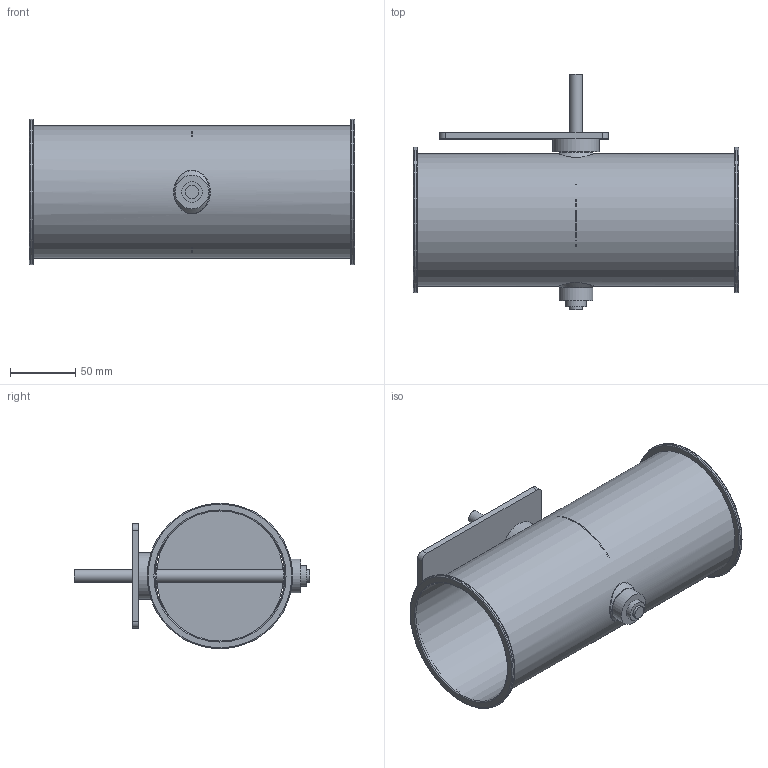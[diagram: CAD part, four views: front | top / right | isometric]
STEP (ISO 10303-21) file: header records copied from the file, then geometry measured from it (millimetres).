
FILE_DESCRIPTION(/* description */ (''),/* implementation_level */ '2;1');
FILE_NAME(/* name */ 'EA120-80B__100_L250_Belimo_Typ_LM.stp',/* time_stamp */ '2017-12-05T13:43:36+01:00',/* author */ (''),/* organization */ (''),/* preprocessor_version */ 'ST-DEVELOPER v11',/* originating_system */ 'SIEMENS UGS NX 6.0',/* authorisation */ '');
FILE_SCHEMA (('CONFIG_CONTROL_DESIGN'));
Length unit declared in the file: millimetre
Products named in the file (1): gars1E3Bhii0
Bounding box: 250 x 181 x 112 mm (x, y, z)
Volume: 164118 mm3; surface area: 219161.6 mm2
Topology: 8 solids, 8 shells, 75 faces, 158 edges, 107 vertices
Faces by surface type: plane 30, cylinder 27, torus 10, cone 4, bspline 4
Full cylindrical faces by diameter (mm): 4.1 x3, 10 x3, 15 x3, 15.85 x2, 16 x2, 24 x2, 26 x1, 36 x1, 100 x1, 101.6 x1, 112 x2
Entity records: 2428 total; most frequent: CARTESIAN_POINT 934, DIRECTION 304, ORIENTED_EDGE 200, EDGE_LOOP 144, AXIS2_PLACEMENT_3D 140, FACE_BOUND 130, EDGE_CURVE 100, VERTEX_POINT 88
